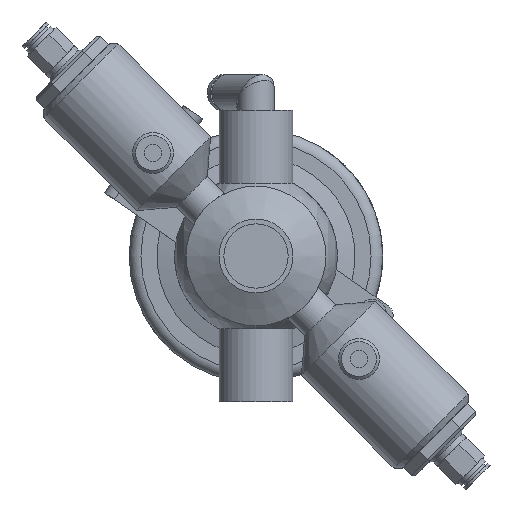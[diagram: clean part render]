
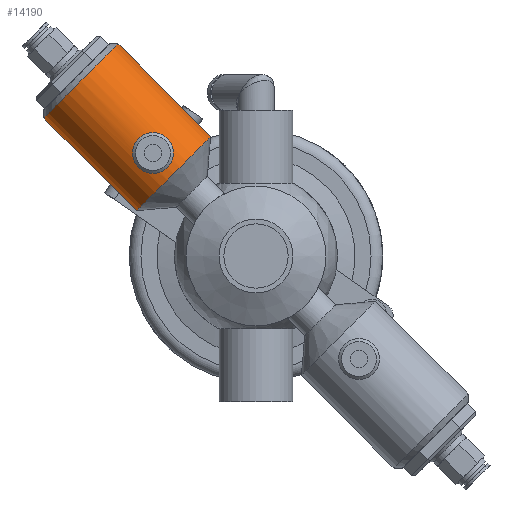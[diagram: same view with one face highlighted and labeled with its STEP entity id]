
A CAD part, front view. The second image highlights one B-rep face of the part: STEP entity #14190.
In plain terms, the highlighted cylindrical face has radius 18 mm (diameter 36 mm), a full revolution.
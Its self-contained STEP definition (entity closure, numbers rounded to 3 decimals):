
#325 = CARTESIAN_POINT ( 'NONE',  ( 38.096, -40.992, 38.937 ) ) ;
#1296 = CARTESIAN_POINT ( 'NONE',  ( 39.627, -40.891, 36.802 ) ) ;
#1556 = EDGE_CURVE ( 'NONE', #6235, #6235, #21929, .T. ) ;
#1845 = CARTESIAN_POINT ( 'NONE',  ( 28.284, -23., 28.284 ) ) ;
#2026 = CARTESIAN_POINT ( 'NONE',  ( 30.998, -40.573, 36.516 ) ) ;
#2150 = CARTESIAN_POINT ( 'NONE',  ( 32.381, -40.428, 38.745 ) ) ;
#2369 = CARTESIAN_POINT ( 'NONE',  ( 33.103, -40.465, 39.262 ) ) ;
#2409 = AXIS2_PLACEMENT_3D ( 'NONE', #1845, #8880, #5195 ) ;
#2910 = CARTESIAN_POINT ( 'NONE',  ( 37.61, -40.465, 31.45 ) ) ;
#3024 = CARTESIAN_POINT ( 'NONE',  ( 35.063, -40.754, 30.855 ) ) ;
#3135 = CARTESIAN_POINT ( 'NONE',  ( 39.264, -40.465, 33.105 ) ) ;
#3258 = CARTESIAN_POINT ( 'NONE',  ( 38.936, -40.436, 32.613 ) ) ;
#3703 = DIRECTION ( 'NONE',  ( -0.707, 0., -0.707 ) ) ;
#3770 = CARTESIAN_POINT ( 'NONE',  ( 36.797, -40.89, 39.628 ) ) ;
#3882 = CARTESIAN_POINT ( 'NONE',  ( 37.344, -40.943, 39.403 ) ) ;
#3899 = DIRECTION ( 'NONE',  ( -0.707, 0., -0.707 ) ) ;
#4118 = CARTESIAN_POINT ( 'NONE',  ( 30.855, -40.679, 35.651 ) ) ;
#4328 = EDGE_LOOP ( 'NONE', ( #18459 ) ) ;
#4656 = CARTESIAN_POINT ( 'NONE',  ( 30.855, -40.754, 35.059 ) ) ;
#4782 = CARTESIAN_POINT ( 'NONE',  ( 39.26, -40.965, 37.611 ) ) ;
#5195 = DIRECTION ( 'NONE',  ( -0.707, 0., 0.707 ) ) ;
#5392 = CARTESIAN_POINT ( 'NONE',  ( 33.365, -40.487, 39.402 ) ) ;
#5524 = FACE_OUTER_BOUND ( 'NONE', #4328, .T. ) ;
#5614 = CARTESIAN_POINT ( 'NONE',  ( 31.447, -40.465, 37.605 ) ) ;
#5953 = CARTESIAN_POINT ( 'NONE',  ( 39.402, -40.943, 37.346 ) ) ;
#6060 = CARTESIAN_POINT ( 'NONE',  ( 30.884, -40.791, 34.767 ) ) ;
#6235 = VERTEX_POINT ( 'NONE', #17273 ) ;
#6483 = CARTESIAN_POINT ( 'NONE',  ( 31.31, -40.944, 33.362 ) ) ;
#6528 = CIRCLE ( 'NONE', #15728, 18. ) ;
#6896 = ORIENTED_EDGE ( 'NONE', *, *, #18483, .T. ) ;
#7209 = CARTESIAN_POINT ( 'NONE',  ( 31.965, -40.428, 38.329 ) ) ;
#7333 = CARTESIAN_POINT ( 'NONE',  ( 38.325, -41., 38.749 ) ) ;
#7782 = CARTESIAN_POINT ( 'NONE',  ( 36.803, -40.54, 31.084 ) ) ;
#8288 = AXIS2_PLACEMENT_3D ( 'NONE', #19652, #3899, #10915 ) ;
#8331 = CARTESIAN_POINT ( 'NONE',  ( 31.086, -40.891, 33.904 ) ) ;
#8359 = VERTEX_POINT ( 'NONE', #15505 ) ;
#8753 = FACE_BOUND ( 'NONE', #15943, .T. ) ;
#8880 = DIRECTION ( 'NONE',  ( -0.707, 0., -0.707 ) ) ;
#9107 = CARTESIAN_POINT ( 'NONE',  ( 60.104, -23., 60.104 ) ) ;
#9192 = CARTESIAN_POINT ( 'NONE',  ( 38.933, -40.993, 38.1 ) ) ;
#9531 = CARTESIAN_POINT ( 'NONE',  ( 38.332, -40.428, 31.968 ) ) ;
#10160 = CARTESIAN_POINT ( 'NONE',  ( 39.855, -40.68, 35.065 ) ) ;
#10290 = CARTESIAN_POINT ( 'NONE',  ( 35.651, -40.679, 30.855 ) ) ;
#10687 = CARTESIAN_POINT ( 'NONE',  ( 31.774, -40.436, 38.096 ) ) ;
#10727 = DIRECTION ( 'NONE',  ( 0.707, 0., -0.707 ) ) ;
#10793 = CARTESIAN_POINT ( 'NONE',  ( 37.607, -40.964, 39.263 ) ) ;
#10898 = CARTESIAN_POINT ( 'NONE',  ( 38.747, -41., 38.328 ) ) ;
#10915 = DIRECTION ( 'NONE',  ( -0.707, 0., 0.707 ) ) ;
#11138 = CARTESIAN_POINT ( 'NONE',  ( 31.084, -40.54, 36.802 ) ) ;
#11241 = CARTESIAN_POINT ( 'NONE',  ( 31.779, -40.993, 32.608 ) ) ;
#11672 = CARTESIAN_POINT ( 'NONE',  ( 39.711, -40.86, 36.522 ) ) ;
#11704 = CARTESIAN_POINT ( 'NONE',  ( 15.556, -23., 41.012 ) ) ;
#11792 = CARTESIAN_POINT ( 'NONE',  ( 39.827, -40.642, 34.773 ) ) ;
#11896 = CARTESIAN_POINT ( 'NONE',  ( 30.855, -40.717, 35.355 ) ) ;
#12525 = CARTESIAN_POINT ( 'NONE',  ( 35.646, -40.753, 39.855 ) ) ;
#12624 = CARTESIAN_POINT ( 'NONE',  ( 35.06, -40.679, 39.855 ) ) ;
#12640 = CYLINDRICAL_SURFACE ( 'NONE', #8288, 18. ) ;
#12857 = CARTESIAN_POINT ( 'NONE',  ( 30.855, -40.717, 35.355 ) ) ;
#12973 = CARTESIAN_POINT ( 'NONE',  ( 39.855, -40.754, 35.649 ) ) ;
#13511 = CARTESIAN_POINT ( 'NONE',  ( 37.351, -40.486, 31.311 ) ) ;
#13637 = CARTESIAN_POINT ( 'NONE',  ( 34.197, -40.859, 30.997 ) ) ;
#13744 = CARTESIAN_POINT ( 'NONE',  ( 38.749, -40.429, 32.386 ) ) ;
#14190 = ADVANCED_FACE ( 'NONE', ( #5524, #21415, #8753 ), #12640, .T. ) ;
#14470 = CARTESIAN_POINT ( 'NONE',  ( 30.884, -40.642, 35.943 ) ) ;
#14822 = CARTESIAN_POINT ( 'NONE',  ( 36.52, -40.572, 30.999 ) ) ;
#15231 = EDGE_CURVE ( 'NONE', #20333, #20333, #22296, .T. ) ;
#15242 = CARTESIAN_POINT ( 'NONE',  ( 35.947, -40.641, 30.885 ) ) ;
#15356 = CARTESIAN_POINT ( 'NONE',  ( 33.368, -40.943, 31.307 ) ) ;
#15483 = CARTESIAN_POINT ( 'NONE',  ( 39.826, -40.791, 35.945 ) ) ;
#15505 = CARTESIAN_POINT ( 'NONE',  ( 72.832, -23., 47.376 ) ) ;
#15728 = AXIS2_PLACEMENT_3D ( 'NONE', #9107, #3703, #10727 ) ;
#15943 = EDGE_LOOP ( 'NONE', ( #20775 ) ) ;
#15972 = CARTESIAN_POINT ( 'NONE',  ( 34.769, -40.642, 39.827 ) ) ;
#16048 = EDGE_LOOP ( 'NONE', ( #6896 ) ) ;
#16087 = CARTESIAN_POINT ( 'NONE',  ( 33.907, -40.54, 39.626 ) ) ;
#16549 = CARTESIAN_POINT ( 'NONE',  ( 39.712, -40.572, 34.192 ) ) ;
#17194 = CARTESIAN_POINT ( 'NONE',  ( 31.449, -40.964, 33.102 ) ) ;
#17273 = CARTESIAN_POINT ( 'NONE',  ( 30.855, -40.717, 35.355 ) ) ;
#17310 = CARTESIAN_POINT ( 'NONE',  ( 39.404, -40.487, 33.369 ) ) ;
#17706 = CARTESIAN_POINT ( 'NONE',  ( 34.191, -40.572, 39.712 ) ) ;
#18152 = CARTESIAN_POINT ( 'NONE',  ( 32.609, -40.436, 38.932 ) ) ;
#18459 = ORIENTED_EDGE ( 'NONE', *, *, #15231, .F. ) ;
#18483 = EDGE_CURVE ( 'NONE', #8359, #8359, #6528, .T. ) ;
#18694 = CARTESIAN_POINT ( 'NONE',  ( 38.1, -40.436, 31.777 ) ) ;
#18800 = CARTESIAN_POINT ( 'NONE',  ( 39.627, -40.541, 33.911 ) ) ;
#18907 = CARTESIAN_POINT ( 'NONE',  ( 32.616, -40.992, 31.773 ) ) ;
#19530 = CARTESIAN_POINT ( 'NONE',  ( 35.943, -40.791, 39.826 ) ) ;
#19635 = CARTESIAN_POINT ( 'NONE',  ( 36.517, -40.859, 39.713 ) ) ;
#19652 = CARTESIAN_POINT ( 'NONE',  ( 12.021, -23., 12.021 ) ) ;
#19983 = CARTESIAN_POINT ( 'NONE',  ( 33.911, -40.891, 31.083 ) ) ;
#20333 = VERTEX_POINT ( 'NONE', #11704 ) ;
#20417 = CARTESIAN_POINT ( 'NONE',  ( 34.772, -40.79, 30.884 ) ) ;
#20654 = CARTESIAN_POINT ( 'NONE',  ( 31.968, -41., 32.379 ) ) ;
#20775 = ORIENTED_EDGE ( 'NONE', *, *, #1556, .T. ) ;
#21162 = CARTESIAN_POINT ( 'NONE',  ( 31.309, -40.487, 37.347 ) ) ;
#21415 = FACE_OUTER_BOUND ( 'NONE', #16048, .T. ) ;
#21753 = CARTESIAN_POINT ( 'NONE',  ( 32.384, -41., 31.963 ) ) ;
#21929 = B_SPLINE_CURVE_WITH_KNOTS ( 'NONE', 3,
 ( #12857, #4118, #14470, #2026, #11138, #21162, #5614, #10687, #7209, #2150, #18152, #2369, #5392, #16087, #17706, #15972, #12624, #12525, #19530, #19635, #3770, #3882, #10793, #325, #7333, #10898, #9192, #4782, #5953, #1296, #11672, #15483, #12973, #10160, #11792, #16549, #18800, #17310, #3135, #3258, #13744, #9531, #18694, #2910, #13511, #7782, #14822, #15242, #10290, #3024, #20417, #13637, #19983, #15356, #22279, #18907, #21753, #20654, #11241, #17194, #6483, #8331, #22516, #6060, #4656, #11896 ),
 .UNSPECIFIED., .T., .F.,
 ( 4, 2, 2, 2, 2, 2, 2, 2, 2, 2, 2, 2, 2, 2, 2, 2, 2, 2, 2, 2, 2, 2, 2, 2, 2, 2, 2, 2, 2, 2, 2, 2, 4 ),
 ( 0., 0.001, 0.002, 0.003, 0.004, 0.004, 0.005, 0.006, 0.007, 0.008, 0.009, 0.01, 0.011, 0.011, 0.012, 0.013, 0.014, 0.015, 0.016, 0.017, 0.018, 0.019, 0.019, 0.02, 0.021, 0.022, 0.023, 0.024, 0.025, 0.026, 0.026, 0.027, 0.028 ),
 .UNSPECIFIED. ) ;
#22279 = CARTESIAN_POINT ( 'NONE',  ( 33.109, -40.964, 31.445 ) ) ;
#22296 = CIRCLE ( 'NONE', #2409, 18. ) ;
#22516 = CARTESIAN_POINT ( 'NONE',  ( 30.999, -40.86, 34.19 ) ) ;
